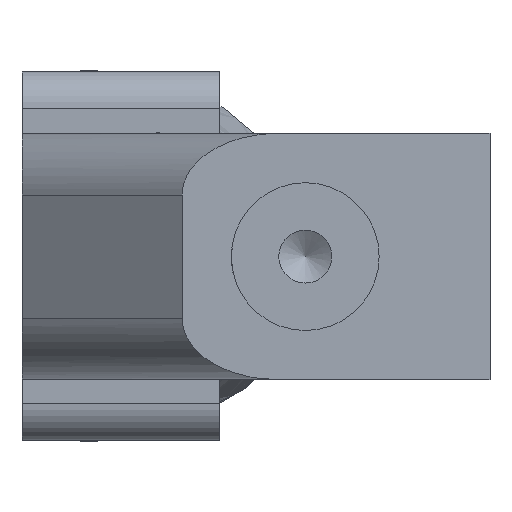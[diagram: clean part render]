
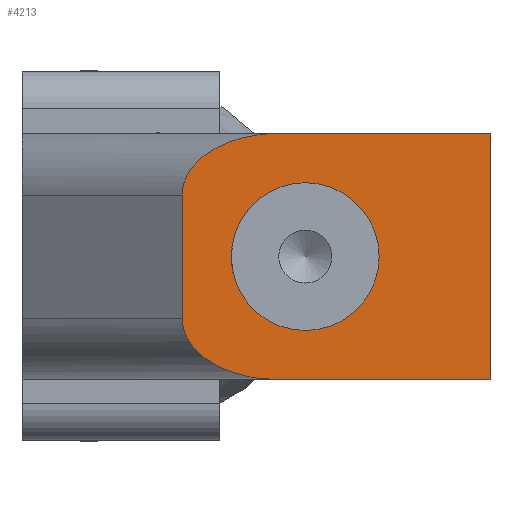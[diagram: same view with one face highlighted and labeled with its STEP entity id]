
A CAD part, left-side view. The second image highlights one B-rep face of the part: STEP entity #4213.
In plain terms, the highlighted planar face has unit normal (-1, 0, 0).
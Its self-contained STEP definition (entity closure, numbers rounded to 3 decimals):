
#314=ELLIPSE('',#4652,7.779,5.);
#315=ELLIPSE('',#4655,7.779,5.);
#334=FACE_BOUND('',#840,.T.);
#389=CIRCLE('',#4634,6.);
#597=FACE_OUTER_BOUND('',#839,.T.);
#839=EDGE_LOOP('',(#2964,#2965,#2966,#2967,#2968,#2969));
#840=EDGE_LOOP('',(#2970));
#1114=LINE('',#6274,#1443);
#1147=LINE('',#6646,#1476);
#1150=LINE('',#6652,#1479);
#1151=LINE('',#6653,#1480);
#1443=VECTOR('',#5079,10.);
#1476=VECTOR('',#5198,10.);
#1479=VECTOR('',#5203,10.);
#1480=VECTOR('',#5204,10.);
#1770=VERTEX_POINT('',#6271);
#1771=VERTEX_POINT('',#6273);
#1799=VERTEX_POINT('',#6451);
#1819=VERTEX_POINT('',#6639);
#1820=VERTEX_POINT('',#6641);
#1821=VERTEX_POINT('',#6645);
#1823=VERTEX_POINT('',#6651);
#2204=EDGE_CURVE('',#1771,#1770,#1114,.T.);
#2245=EDGE_CURVE('',#1799,#1799,#389,.T.);
#2271=EDGE_CURVE('',#1819,#1820,#314,.T.);
#2273=EDGE_CURVE('',#1820,#1821,#1147,.T.);
#2276=EDGE_CURVE('',#1823,#1819,#1150,.T.);
#2277=EDGE_CURVE('',#1823,#1771,#1151,.T.);
#2278=EDGE_CURVE('',#1821,#1770,#315,.T.);
#2964=ORIENTED_EDGE('',*,*,#2271,.F.);
#2965=ORIENTED_EDGE('',*,*,#2276,.F.);
#2966=ORIENTED_EDGE('',*,*,#2277,.T.);
#2967=ORIENTED_EDGE('',*,*,#2204,.T.);
#2968=ORIENTED_EDGE('',*,*,#2278,.F.);
#2969=ORIENTED_EDGE('',*,*,#2273,.F.);
#2970=ORIENTED_EDGE('',*,*,#2245,.T.);
#4094=PLANE('',#4654);
#4213=ADVANCED_FACE('',(#597,#334),#4094,.T.);
#4634=AXIS2_PLACEMENT_3D('',#6453,#5151,#5152);
#4652=AXIS2_PLACEMENT_3D('',#6642,#5193,#5194);
#4654=AXIS2_PLACEMENT_3D('',#6650,#5201,#5202);
#4655=AXIS2_PLACEMENT_3D('',#6654,#5205,#5206);
#5079=DIRECTION('',(0.,1.,0.));
#5151=DIRECTION('center_axis',(1.,0.,0.));
#5152=DIRECTION('ref_axis',(0.,0.,1.));
#5193=DIRECTION('center_axis',(1.,0.,0.));
#5194=DIRECTION('ref_axis',(0.,1.,0.));
#5198=DIRECTION('',(0.,0.,1.));
#5201=DIRECTION('center_axis',(-1.,0.,0.));
#5202=DIRECTION('ref_axis',(0.,0.,1.));
#5203=DIRECTION('',(0.,1.,0.));
#5204=DIRECTION('',(0.,0.,1.));
#5205=DIRECTION('center_axis',(1.,0.,0.));
#5206=DIRECTION('ref_axis',(0.,1.,0.));
#6271=CARTESIAN_POINT('',(1033.56,75.624,20.));
#6273=CARTESIAN_POINT('',(1033.56,58.403,20.));
#6274=CARTESIAN_POINT('',(1033.56,58.403,20.));
#6451=CARTESIAN_POINT('',(1033.56,73.403,4.));
#6453=CARTESIAN_POINT('Origin',(1033.56,73.403,10.));
#6639=CARTESIAN_POINT('',(1033.56,75.624,0.));
#6641=CARTESIAN_POINT('',(1033.56,83.403,5.));
#6642=CARTESIAN_POINT('Origin',(1033.56,75.624,5.));
#6645=CARTESIAN_POINT('',(1033.56,83.403,15.));
#6646=CARTESIAN_POINT('',(1033.56,83.403,0.));
#6650=CARTESIAN_POINT('Origin',(1033.56,58.403,0.));
#6651=CARTESIAN_POINT('',(1033.56,58.403,0.));
#6652=CARTESIAN_POINT('',(1033.56,58.403,0.));
#6653=CARTESIAN_POINT('',(1033.56,58.403,0.));
#6654=CARTESIAN_POINT('Origin',(1033.56,75.624,15.));
